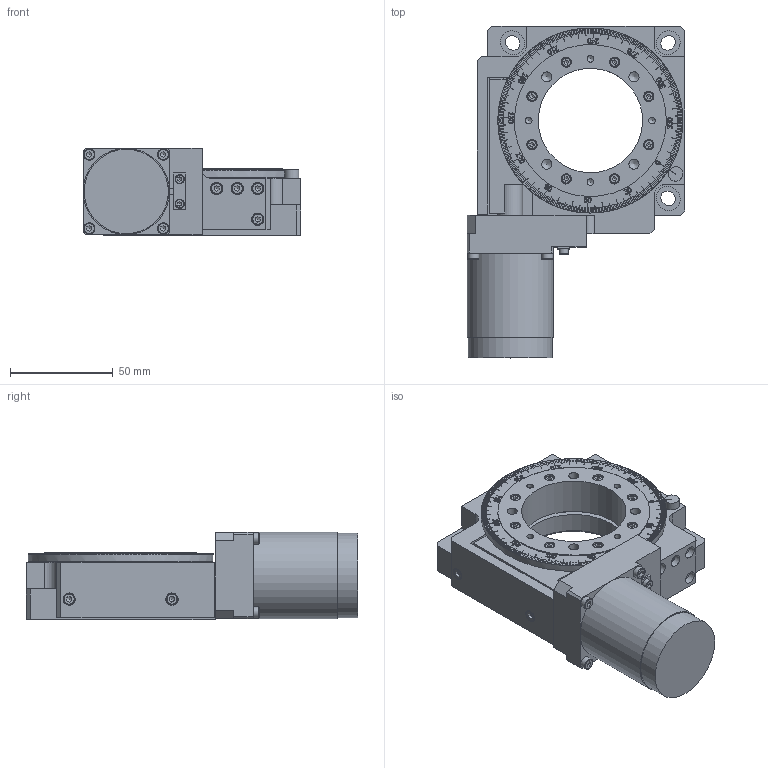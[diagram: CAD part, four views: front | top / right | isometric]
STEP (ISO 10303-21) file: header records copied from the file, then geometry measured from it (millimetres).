
FILE_DESCRIPTION(/* description */ (''),/* implementation_level */ '2;1');
FILE_NAME(/* name */ 'C:\Users\dsgn39.CENTRAS\Desktop\Internetui\8MR190V-2-VSS42\8MR190V-2-VSS42.stp',/* time_stamp */ '2019-08-08T11:28:12+03:00',/* author */ ('dsgn39'),/* organization */ (''),/* preprocessor_version */ 'ST-DEVELOPER v15.2',/* originating_system */ 'Autodesk Inventor 2014',/* authorisation */ '');
FILE_SCHEMA (('AUTOMOTIVE_DESIGN { 1 0 10303 214 3 1 1 }'));
Products named in the file (2): Part2; Assembly1
Bounding box: 106 x 161.5 x 42.5 mm (x, y, z)
Volume: 313055.3 mm3; surface area: 63019.5 mm2
Topology: 1 solids, 27 shells, 2822 faces, 7849 edges, 5210 vertices
Faces by surface type: plane 2092, bspline 476, cylinder 152, torus 56, cone 46
Full cylindrical faces by diameter (mm): 2.5 x10, 2.9 x10, 3 x15, 3.2 x4, 3.242 x8, 3.4 x10, 4 x1, 4.5 x10, 4.917 x8, 5 x12, 5.5 x14, 6 x10, 6.647 x2, 7 x1, 12 x1, 41 x1, 42 x1, 50.8 x1, 51 x1, 56 x1, 70 x1, 74 x1, 86 x1, 87.5 x1, 90 x1
Entity records: 91818 total; most frequent: CARTESIAN_POINT 23466, ORIENTED_EDGE 15096, DIRECTION 12214, EDGE_CURVE 7548, LINE 5332, VECTOR 5332, VERTEX_POINT 5129, AXIS2_PLACEMENT_3D 3441
